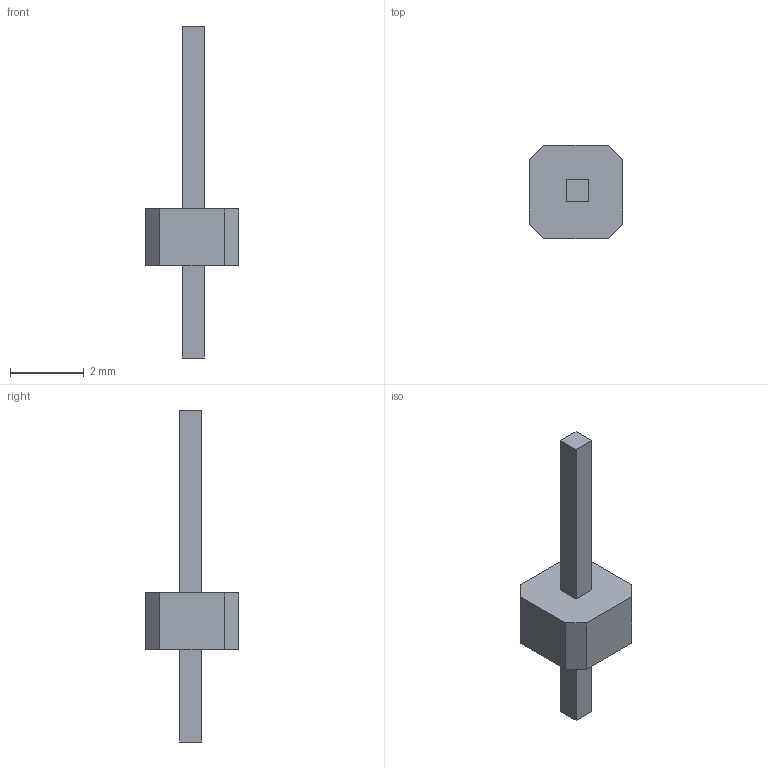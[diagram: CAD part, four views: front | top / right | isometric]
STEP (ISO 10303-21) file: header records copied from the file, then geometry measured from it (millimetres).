
FILE_DESCRIPTION(('FreeCAD Model'),'2;1');
FILE_NAME('Open CASCADE Shape Model','2025-02-25T19:35:15',( 'Krisjanis Rijnieks'),(''),'Open CASCADE STEP processor 7.7', 'FreeCAD','Unknown');
FILE_SCHEMA(('AUTOMOTIVE_DESIGN { 1 0 10303 214 1 1 1 1 }'));
Length unit declared in the file: millimetre
Products named in the file (2): 01x01_P2.54mm_Vertical_THT; PinHeader
Assembly tree (1 placements, depth 2):
  01x01_P2.54mm_Vertical_THT
    PinHeader
Bounding box: 2.54 x 2.54 x 9 mm (x, y, z)
Volume: 12.1 mm3; surface area: 44.4 mm2
Topology: 1 solids, 1 shells, 20 faces, 48 edges, 32 vertices
Faces by surface type: plane 20
Entity records: 683 total; most frequent: CARTESIAN_POINT 102, ORIENTED_EDGE 96, DIRECTION 92, EDGE_CURVE 48, LINE 48, VECTOR 48, VERTEX_POINT 32, AXIS2_PLACEMENT_3D 22
